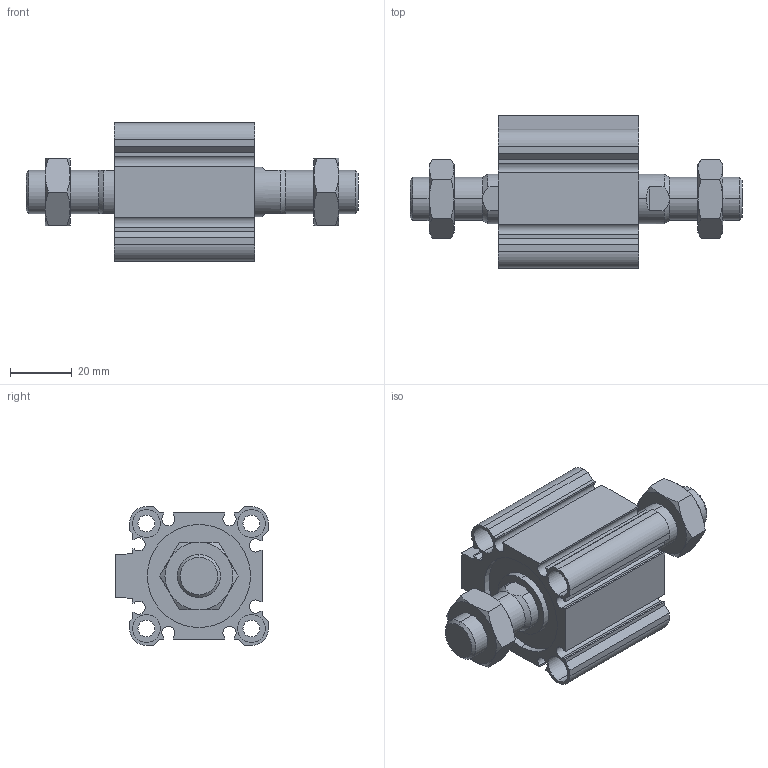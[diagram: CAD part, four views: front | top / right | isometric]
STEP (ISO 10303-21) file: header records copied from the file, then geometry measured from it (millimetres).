
FILE_DESCRIPTION (( 'STEP AP203' ), '1' );
FILE_NAME ('CCMB32-5M-P.STEP', '2020-08-10T11:30:55', ( '' ), ( '' ), 'SwSTEP 2.0', 'SolidWorks 2019', '' );
FILE_SCHEMA (( 'CONFIG_CONTROL_DESIGN' ));
Length unit declared in the file: millimetre
Products named in the file (1): CCMB32-5M-P
Bounding box: 107.5 x 49.5 x 45 mm (x, y, z)
Volume: 82586 mm3; surface area: 34503.6 mm2
Topology: 4 solids, 4 shells, 216 faces, 522 edges, 332 vertices
Faces by surface type: plane 94, cylinder 78, cone 44
Entity records: 7009 total; most frequent: CARTESIAN_POINT 1819, DIRECTION 1088, ORIENTED_EDGE 1044, EDGE_CURVE 522, AXIS2_PLACEMENT_3D 413, VERTEX_POINT 332, VECTOR 262, LINE 262
